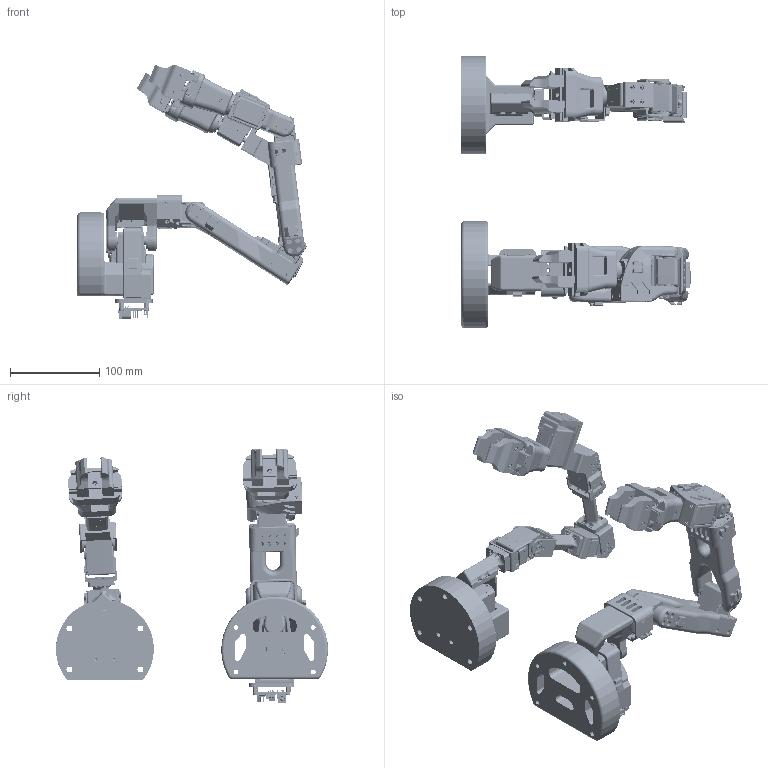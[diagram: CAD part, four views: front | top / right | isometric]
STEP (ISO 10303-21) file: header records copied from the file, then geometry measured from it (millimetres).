
FILE_DESCRIPTION(/* description */ (''),/* implementation_level */ '2;1');
FILE_NAME(/* name */ 'Assieme_robot_101_bracket.stp',/* time_stamp */ '2025-07-26T19:59:14+02:00',/* author */ ('R5800u'),/* organization */ (''),/* preprocessor_version */ 'ST-DEVELOPER v20',/* originating_system */ 'Autodesk Inventor 2025',/* authorisation */ '');
FILE_SCHEMA (('AUTOMOTIVE_DESIGN { 1 0 10303 214 3 1 1 }'));
Products named in the file (229): Assieme1; sts3215_flangia_t1; Сборка14_3; SCS215_7_3; sts3215_flangia_t1_1; Сборка14_3_1; SCS215_7_3_1; Vite a testa cilindrica incassata esalobulare ISO 14580 - M2,5x8-4.8; AS 1474 - M2,5; sts3215_flangia_t1_2; Сборка14_3_2; SCS215_7_3_2; blocco_base; sts3215_flangia_t13iam; Сборка14_3_3; SCS215_7_3_3; link_quadro_2_15mm; sts3215_flangia_t1_3; Сборка14_3_4; SCS215_7_3_4; flangia3; flangia1; link_quadro_15mm; link_gomito_quadro_15mm; SO101 Assembl v3y; Base_SO101 v13; Rotation_Pitch_SO101; Upper_arm_SO101; Parte6; Under_arm_SO101; Parte8; Base_08p; Motor_holder_SO101_Base; Parte12; Motor_holder_SO101_Wrist; Parte14; Wrist_Roll_Pitch_SO100; Parte16; PCB; Board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
Assembly tree (385 placements, depth 8):
  Assieme1
    sts3215_flangia_t1
      Сборка14_3
        SCS215_7_3
          ZK_122
          SG-ZIJI_15
          XG-ZIJI_16
          MOTOR-1723_3
          PCB-CHAZUO_92
          GE_27
          金属舵盘（驱动）
          金属舵盘（从动）
      flangia3
      flangia1
    sts3215_flangia_t1_1
      Сборка14_3_1
        SCS215_7_3_1
          ZK_122
          SG-ZIJI_15
          XG-ZIJI_16
          MOTOR-1723_3
          PCB-CHAZUO_92
          GE_27
          金属舵盘（驱动）
          金属舵盘（从动）
      flangia3
      flangia1
    link_quadro_15mm  x2
    Vite a testa cilindrica incassata esalobulare ISO 14580 - M2,5x8-4.8  x4
    AS 1474 - M2,5
    sts3215_flangia_t1_2
      Сборка14_3_2
        SCS215_7_3_2
          ZK_122
          SG-ZIJI_15
          XG-ZIJI_16
          MOTOR-1723_3
          PCB-CHAZUO_92
          GE_27
          金属舵盘（驱动）
          金属舵盘（从动）
      flangia3
      flangia1
    blocco_base
    gripper
      gripper_rail_base
      gripper_finger  x2
      gripper_base_plate
      MG90S_assieme_disco_ldb2
        MG90_ldb
        scritta_MG90s  x2
      MG90S 9g Micro Servo Medium Horn 12 holes
      blocco_giunto_polso
      gripper_spur_gear v2
      dito1  x2
      AS 1420 - 1973 - M3 x 10  x5
      BS 4168 - M2,5 x 10
      AS 1427 - M2 x 12
    sts3215_flangia_t13iam
      Сборка14_3_3
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Bounding box: 257.23 x 305.48 x 286.03 mm (x, y, z)
Volume: 1617556.3 mm3; surface area: 580001.7 mm2
Topology: 269 solids, 385 shells, 26903 faces, 73732 edges, 48699 vertices
Faces by surface type: plane 14615, cylinder 7400, bspline 3461, cone 631, torus 485, sphere 311
Full cylindrical faces by diameter (mm): 0.08 x1, 0.4 x1, 0.5 x2, 0.7 x12, 0.762 x2, 0.8 x2, 0.889 x11, 1 x19, 1.03 x12, 1.167 x6, 1.2 x10, 1.5 x14, 1.6 x120, 1.755 x2, 2 x45, 2.013 x1, 2.2 x77, 2.256 x4, 2.43 x4, 2.47 x2, 2.5 x338, 2.6 x10, 2.7 x10, 2.8 x2, 3 x159, 3.2 x60, 3.5 x32, 4 x14, 4.5 x12, 4.69 x2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
Entity records: 364655 total; most frequent: CARTESIAN_POINT 134736, ORIENTED_EDGE 47869, DIRECTION 44277, EDGE_CURVE 23935, LINE 16073, VECTOR 16073, VERTEX_POINT 15706, AXIS2_PLACEMENT_3D 14102
